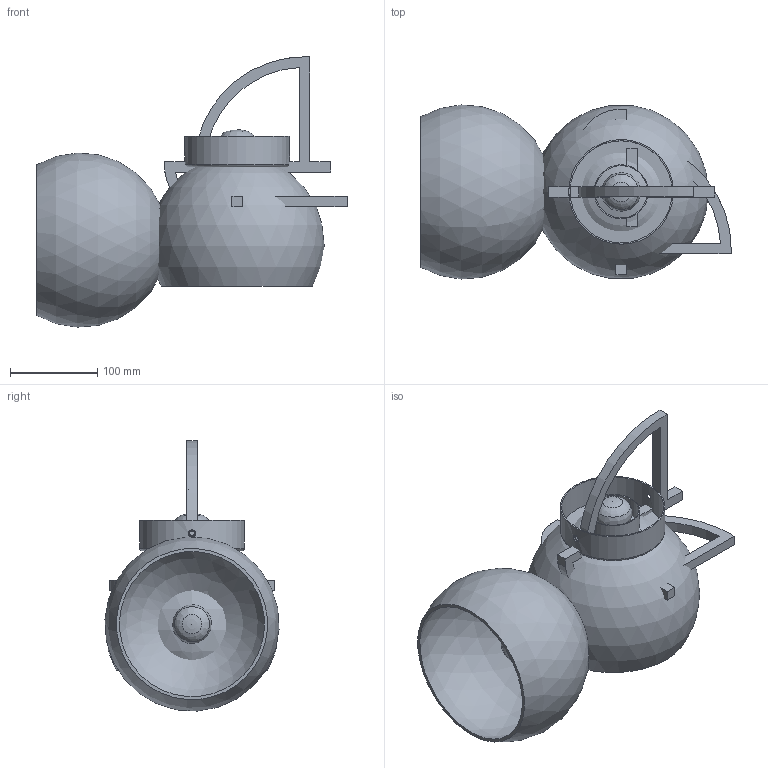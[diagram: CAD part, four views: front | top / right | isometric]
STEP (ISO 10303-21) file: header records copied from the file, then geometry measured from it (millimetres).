
FILE_DESCRIPTION( ( 'Unknown' ), '1' );
FILE_NAME( '//MMS001/Pubblica/PROGETTI MM LAMPADARI/7415 MYA/3D/7415APPLIQUE.stp', 'Unknown', ( 'Unknown' ), ( 'Unknown' ), 'XStep 1.0', 'Unknown', ' ' );
FILE_SCHEMA( ( 'automotive_design' ) );
Length unit declared in the file: millimetre
Products named in the file (9): Assem1; Assem2; 400231108 CAPPELLOTTO E14 BIANCO; 400233113 CAMICIA E14 BIANCA FILETTATA; 400230076 LAMPADINA E14 5,7W PARATHOM OSRAM; 7415C035 ROSONE CIRCOLARE; 7415C060 BRACCIO APPLIQUE; 400103564 SCATOLA FE D 64x33 15-10; 7415C015 CUPOLA
Bounding box: 355.53 x 199.51 x 309.72 mm (x, y, z)
Volume: 958683.9 mm3; surface area: 683642.7 mm2
Topology: 17 solids, 17 shells, 972 faces, 2598 edges, 1684 vertices
Faces by surface type: plane 535, cylinder 205, torus 103, cone 72, bspline 50, sphere 7
Full cylindrical faces by diameter (mm): 1.567 x3, 2 x3, 3 x3, 5.5 x4, 8.917 x4, 10.25 x2, 10.5 x2, 13.044 x18, 16 x3, 16.211 x3, 18.985 x3, 20 x3, 22.5 x15, 28 x3, 31 x2, 60 x2, 62 x2, 117 x2, 120 x2
Entity records: 14381 total; most frequent: CARTESIAN_POINT 6027, DIRECTION 1663, ORIENTED_EDGE 1646, EDGE_CURVE 823, AXIS2_PLACEMENT_3D 605, VERTEX_POINT 575, LINE 453, VECTOR 453
